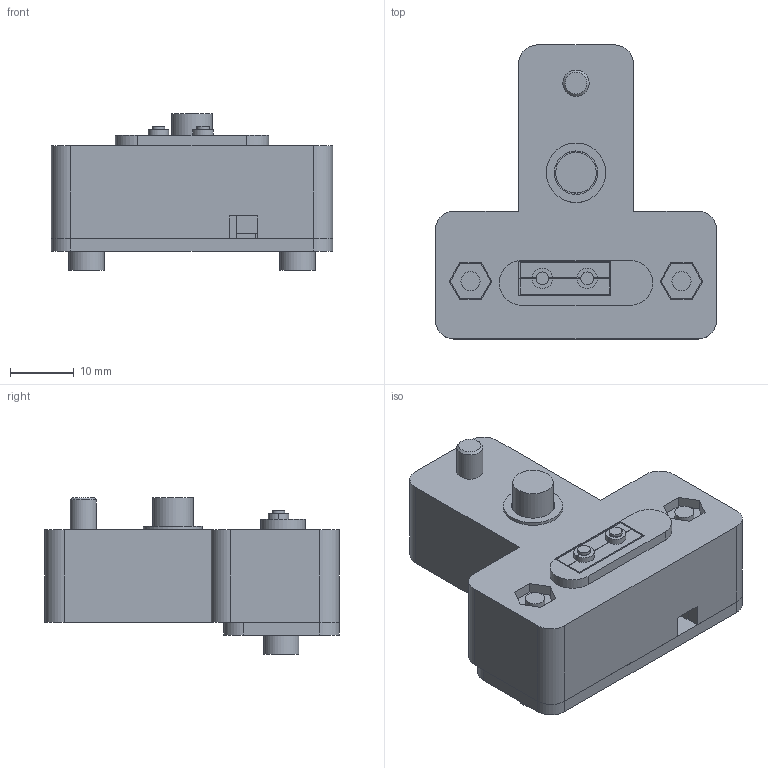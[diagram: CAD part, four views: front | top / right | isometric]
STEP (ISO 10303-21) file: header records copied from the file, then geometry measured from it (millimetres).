
FILE_DESCRIPTION(('Open CASCADE Model'),'2;1');
FILE_NAME('Open CASCADE Shape Model','2026-10-30T11:34:50',('Author'),( 'Open CASCADE'),'Open CASCADE STEP processor 7.9','Open CASCADE 7.9' ,'Unknown');
FILE_SCHEMA(('AUTOMOTIVE_DESIGN { 1 0 10303 214 1 1 1 1 }'));
Length unit declared in the file: millimetre
Products named in the file (12): ELTS_VIVE_Tracker_3_Trigger_Connector_Rev_C_Exposed_Base; body; insert_front; insert_rear; wire_cover; contact_2_ground; contact_4_trigger; mount_screw_reference; cover_screw_left_reference; cover_nut_left_reference; cover_screw_right_reference; cover_nut_right_reference
Assembly tree (11 placements, depth 2):
  ELTS_VIVE_Tracker_3_Trigger_Connector_Rev_C_Exposed_Base
    body
    insert_front
    insert_rear
    wire_cover
    contact_2_ground
    contact_4_trigger
    mount_screw_reference
    cover_screw_left_reference
    cover_nut_left_reference
    cover_screw_right_reference
    cover_nut_right_reference
Bounding box: 44 x 46 x 24.5 mm (x, y, z)
Volume: 16946.1 mm3; surface area: 11872.3 mm2
Topology: 11 solids, 11 shells, 224 faces, 550 edges, 366 vertices
Faces by surface type: plane 166, cylinder 57, cone 1
Full cylindrical faces by diameter (mm): 0.9 x2, 1.5 x2, 2 x2, 3 x4, 3.4 x4, 4.1 x1, 5.5 x2, 6.35 x1, 6.8 x1, 9.3 x1, 10.8 x1, 11.8 x1
Entity records: 13896 total; most frequent: CARTESIAN_POINT 2842, DIRECTION 1892, LINE 1125, VECTOR 1125, ORIENTED_EDGE 1100, PCURVE 1100, DEFINITIONAL_REPRESENTATION 1100, EDGE_CURVE 550
